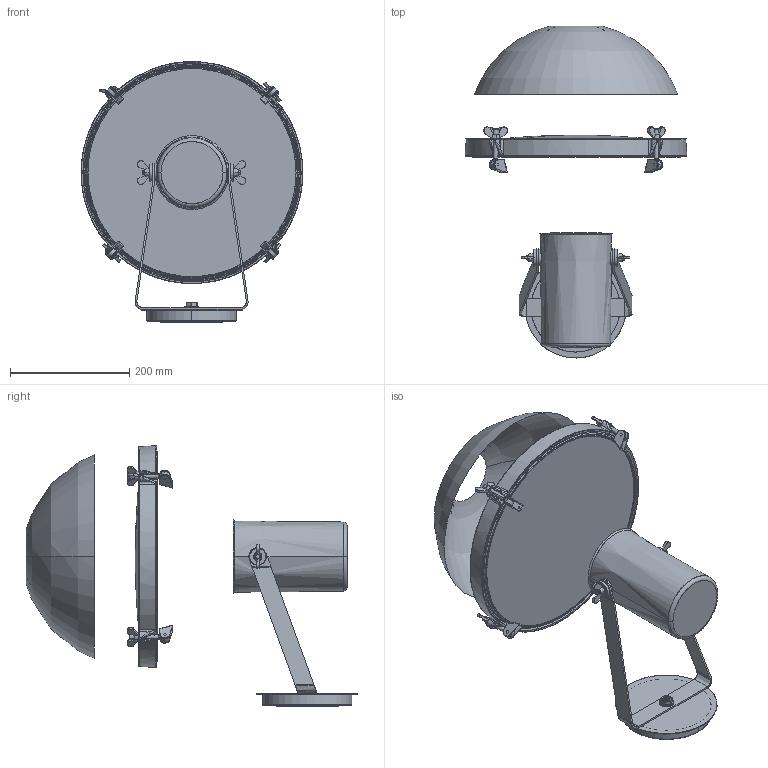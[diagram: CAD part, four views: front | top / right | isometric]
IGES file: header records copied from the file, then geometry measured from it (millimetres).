
Start section: SolidWorks IGES file using analytic representation for surfaces
Global section: file name: C:\Users\tungari.NEMOLIGHTING\Desktop\3D\WALL_CEILING\3D_PROJECTEUR_36555\DEF\3D_PROJECTEUR_365.IGS; native system: SolidWorks 2016; preprocessor: SolidWorks 2016; author: tungari; date: 180315.170154; units: millimetre
Bounding box: 372.96 x 557.48 x 438.18 mm (x, y, z)
Surface area: 817714 mm2 (no closed solid volume)
Topology: 0 solids, 0 shells, 891 faces, 12982 edges, 12975 vertices
Faces by surface type: bspline 477, revolution 414
